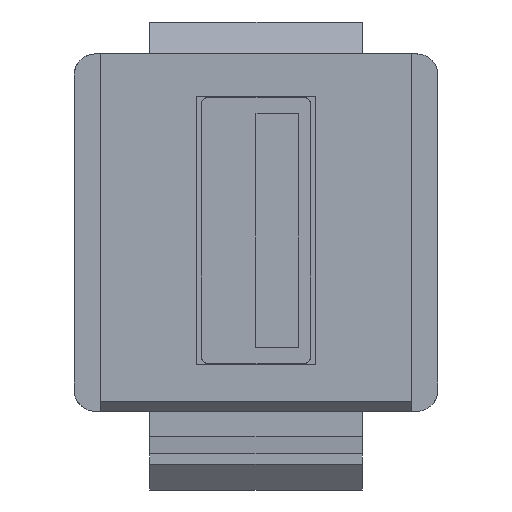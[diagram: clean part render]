
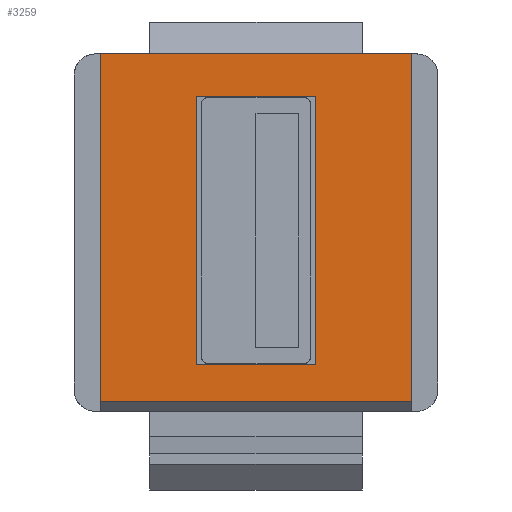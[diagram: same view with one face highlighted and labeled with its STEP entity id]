
A CAD part, left-side view. The second image highlights one B-rep face of the part: STEP entity #3259.
In plain terms, the highlighted free-form (B-spline) face has degree [1, 1] with [2, 2] control points.
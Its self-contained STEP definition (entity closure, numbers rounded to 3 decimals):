
#1023=CARTESIAN_POINT('',(0.,11.35,-14.6));
#1024=VERTEX_POINT('',#1023);
#1047=CARTESIAN_POINT('',(0.,5.75,-14.6));
#1048=VERTEX_POINT('',#1047);
#1058=CARTESIAN_POINT('',(0.,5.75,-14.6));
#1059=CARTESIAN_POINT('',(0.,6.87,-14.6));
#1060=CARTESIAN_POINT('',(0.,7.99,-14.6));
#1061=CARTESIAN_POINT('',(0.,9.11,-14.6));
#1062=CARTESIAN_POINT('',(0.,10.23,-14.6));
#1063=CARTESIAN_POINT('',(0.,11.35,-14.6));
#1064=B_SPLINE_CURVE_WITH_KNOTS('',5,(#1058,#1059,#1060,#1061,#1062,#1063),.UNSPECIFIED.,.F.,.U.,(6,6),(0.,5.6),.UNSPECIFIED.);
#1065=EDGE_CURVE('',#1048,#1024,#1064,.T.);
#1087=CARTESIAN_POINT('',(0.,5.75,-2.));
#1088=VERTEX_POINT('',#1087);
#1098=CARTESIAN_POINT('',(0.,5.75,-2.));
#1099=CARTESIAN_POINT('',(0.,5.75,-4.52));
#1100=CARTESIAN_POINT('',(0.,5.75,-7.04));
#1101=CARTESIAN_POINT('',(0.,5.75,-9.56));
#1102=CARTESIAN_POINT('',(0.,5.75,-12.08));
#1103=CARTESIAN_POINT('',(0.,5.75,-14.6));
#1104=B_SPLINE_CURVE_WITH_KNOTS('',5,(#1098,#1099,#1100,#1101,#1102,#1103),.UNSPECIFIED.,.F.,.U.,(6,6),(0.,12.6),.UNSPECIFIED.);
#1105=EDGE_CURVE('',#1088,#1048,#1104,.T.);
#1127=CARTESIAN_POINT('',(0.,11.35,-2.));
#1128=VERTEX_POINT('',#1127);
#1138=CARTESIAN_POINT('',(0.,11.35,-2.));
#1139=CARTESIAN_POINT('',(0.,10.23,-2.));
#1140=CARTESIAN_POINT('',(0.,9.11,-2.));
#1141=CARTESIAN_POINT('',(0.,7.99,-2.));
#1142=CARTESIAN_POINT('',(0.,6.87,-2.));
#1143=CARTESIAN_POINT('',(0.,5.75,-2.));
#1144=B_SPLINE_CURVE_WITH_KNOTS('',5,(#1138,#1139,#1140,#1141,#1142,#1143),.UNSPECIFIED.,.F.,.U.,(6,6),(0.,5.6),.UNSPECIFIED.);
#1145=EDGE_CURVE('',#1128,#1088,#1144,.T.);
#1166=CARTESIAN_POINT('',(0.,11.35,-14.6));
#1167=CARTESIAN_POINT('',(0.,11.35,-12.08));
#1168=CARTESIAN_POINT('',(0.,11.35,-9.56));
#1169=CARTESIAN_POINT('',(0.,11.35,-7.04));
#1170=CARTESIAN_POINT('',(0.,11.35,-4.52));
#1171=CARTESIAN_POINT('',(0.,11.35,-2.));
#1172=B_SPLINE_CURVE_WITH_KNOTS('',5,(#1166,#1167,#1168,#1169,#1170,#1171),.UNSPECIFIED.,.F.,.U.,(6,6),(0.,12.6),.UNSPECIFIED.);
#1173=EDGE_CURVE('',#1024,#1128,#1172,.T.);
#3125=CARTESIAN_POINT('',(0.,1.25,0.));
#3126=VERTEX_POINT('',#3125);
#3145=CARTESIAN_POINT('',(0.,15.85,0.));
#3146=VERTEX_POINT('',#3145);
#3156=CARTESIAN_POINT('',(0.,1.25,0.));
#3157=CARTESIAN_POINT('',(0.,4.17,0.));
#3158=CARTESIAN_POINT('',(0.,7.09,0.));
#3159=CARTESIAN_POINT('',(0.,10.01,0.));
#3160=CARTESIAN_POINT('',(0.,12.93,0.));
#3161=CARTESIAN_POINT('',(0.,15.85,0.));
#3162=B_SPLINE_CURVE_WITH_KNOTS('',5,(#3156,#3157,#3158,#3159,#3160,#3161),.UNSPECIFIED.,.F.,.U.,(6,6),(0.,14.6),.UNSPECIFIED.);
#3163=EDGE_CURVE('',#3126,#3146,#3162,.T.);
#3214=CARTESIAN_POINT('',(0.,1.25,-16.35));
#3215=CARTESIAN_POINT('',(0.,15.85,-16.35));
#3216=CARTESIAN_POINT('',(0.,1.25,0.));
#3217=CARTESIAN_POINT('',(0.,15.85,0.));
#3218=B_SPLINE_SURFACE_WITH_KNOTS('',1,1,((#3214,#3215),(#3216,#3217)),.PLANE_SURF.,.F.,.F.,.U.,(2,2),(2,2),(0.,1.12),(0.,1.),.UNSPECIFIED.);
#3219=CARTESIAN_POINT('',(0.,1.25,-16.35));
#3220=VERTEX_POINT('',#3219);
#3221=CARTESIAN_POINT('',(0.,1.25,-16.35));
#3222=CARTESIAN_POINT('',(0.,1.25,-13.08));
#3223=CARTESIAN_POINT('',(0.,1.25,-9.81));
#3224=CARTESIAN_POINT('',(0.,1.25,-6.54));
#3225=CARTESIAN_POINT('',(0.,1.25,-3.27));
#3226=CARTESIAN_POINT('',(0.,1.25,0.));
#3227=B_SPLINE_CURVE_WITH_KNOTS('',5,(#3221,#3222,#3223,#3224,#3225,#3226),.UNSPECIFIED.,.F.,.U.,(6,6),(0.,16.35),.UNSPECIFIED.);
#3228=EDGE_CURVE('',#3220,#3126,#3227,.T.);
#3229=ORIENTED_EDGE('',*,*,#3228,.T.);
#3230=ORIENTED_EDGE('',*,*,#3163,.T.);
#3231=CARTESIAN_POINT('',(0.,15.85,-16.35));
#3232=VERTEX_POINT('',#3231);
#3233=CARTESIAN_POINT('',(0.,15.85,-16.35));
#3234=CARTESIAN_POINT('',(0.,15.85,-13.08));
#3235=CARTESIAN_POINT('',(0.,15.85,-9.81));
#3236=CARTESIAN_POINT('',(0.,15.85,-6.54));
#3237=CARTESIAN_POINT('',(0.,15.85,-3.27));
#3238=CARTESIAN_POINT('',(0.,15.85,0.));
#3239=B_SPLINE_CURVE_WITH_KNOTS('',5,(#3233,#3234,#3235,#3236,#3237,#3238),.UNSPECIFIED.,.F.,.U.,(6,6),(0.,16.35),.UNSPECIFIED.);
#3240=EDGE_CURVE('',#3232,#3146,#3239,.T.);
#3241=ORIENTED_EDGE('',*,*,#3240,.F.);
#3242=CARTESIAN_POINT('',(0.,1.25,-16.35));
#3243=CARTESIAN_POINT('',(0.,4.17,-16.35));
#3244=CARTESIAN_POINT('',(0.,7.09,-16.35));
#3245=CARTESIAN_POINT('',(0.,10.01,-16.35));
#3246=CARTESIAN_POINT('',(0.,12.93,-16.35));
#3247=CARTESIAN_POINT('',(0.,15.85,-16.35));
#3248=B_SPLINE_CURVE_WITH_KNOTS('',5,(#3242,#3243,#3244,#3245,#3246,#3247),.UNSPECIFIED.,.F.,.U.,(6,6),(0.,14.6),.UNSPECIFIED.);
#3249=EDGE_CURVE('',#3220,#3232,#3248,.T.);
#3250=ORIENTED_EDGE('',*,*,#3249,.F.);
#3251=EDGE_LOOP('',(#3229,#3230,#3241,#3250));
#3252=FACE_OUTER_BOUND('',#3251,.T.);
#3253=ORIENTED_EDGE('',*,*,#1065,.T.);
#3254=ORIENTED_EDGE('',*,*,#1173,.T.);
#3255=ORIENTED_EDGE('',*,*,#1145,.T.);
#3256=ORIENTED_EDGE('',*,*,#1105,.T.);
#3257=EDGE_LOOP('',(#3253,#3254,#3255,#3256));
#3258=FACE_BOUND('',#3257,.T.);
#3259=ADVANCED_FACE('',(#3252,#3258),#3218,.T.);
